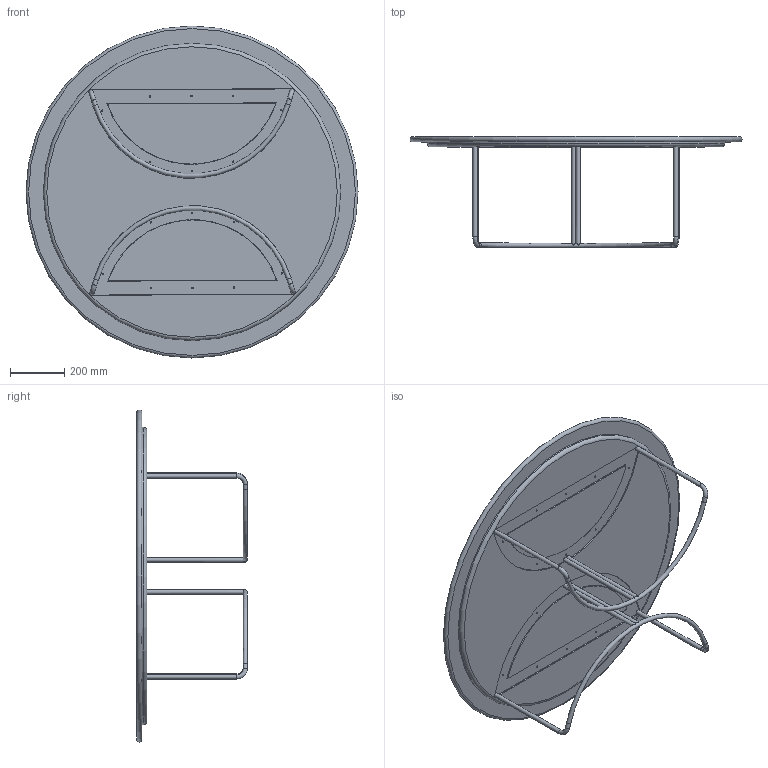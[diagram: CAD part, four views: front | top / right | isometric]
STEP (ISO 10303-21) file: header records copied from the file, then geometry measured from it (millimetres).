
FILE_DESCRIPTION(/* description */ (''),/* implementation_level */ '2;1');
FILE_NAME(/* name */ '1068.stp',/* time_stamp */ '2025-09-26T15:46:11-04:00',/* author */ ('abieber'),/* organization */ (''),/* preprocessor_version */ 'ST-DEVELOPER v20',/* originating_system */ 'Autodesk Inventor 2025',/* authorisation */ '');
FILE_SCHEMA (('AUTOMOTIVE_DESIGN { 1 0 10303 214 3 1 1 }'));
Length unit declared in the file: inch
Products named in the file (9): 1068; 1068-TOP - PROTOTYPE; 1068-SUBTOP - PROTOTYPE; BA1068; BA1068-003 - BASE - LEG ASSEMBLY; BA1068-005 - BASE - BOTTOM HOOP; BA1066-004 ; BA1066-007; BA1068-001
Assembly tree (11 placements, depth 4):
  1068
    1068-TOP - PROTOTYPE
    1068-SUBTOP - PROTOTYPE
    BA1068  x2
      BA1068-003 - BASE - LEG ASSEMBLY
        BA1068-005 - BASE - BOTTOM HOOP
        BA1066-004   x2
      BA1066-007
      BA1068-001
Bounding box: 1219.2 x 406.41 x 1219.2 mm (x, y, z)
Volume: 39467108.5 mm3; surface area: 4939200.5 mm2
Topology: 14 solids, 14 shells, 105 faces, 227 edges, 154 vertices
Faces by surface type: cylinder 53, plane 44, torus 8
Full cylindrical faces by diameter (mm): 4.762 x16, 15.875 x12, 1092.2 x1
Entity records: 2102 total; most frequent: DIRECTION 364, CARTESIAN_POINT 304, ORIENTED_EDGE 268, AXIS2_PLACEMENT_3D 150, EDGE_CURVE 134, VERTEX_POINT 90, EDGE_LOOP 82, CIRCLE 67
